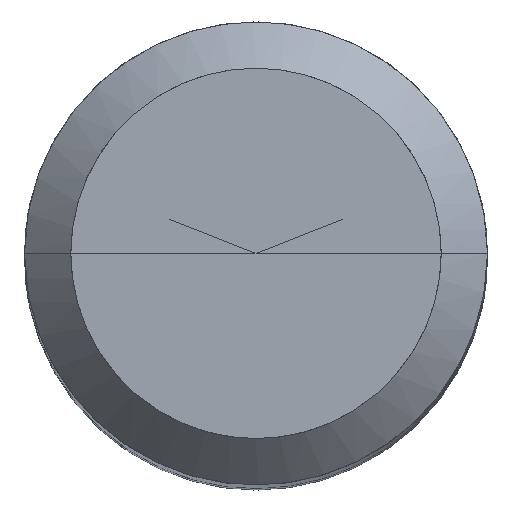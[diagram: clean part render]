
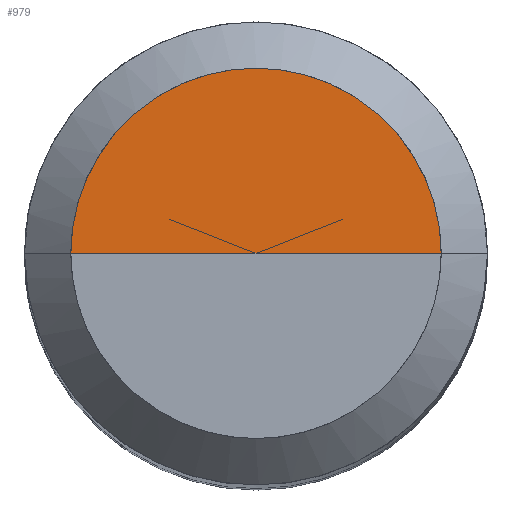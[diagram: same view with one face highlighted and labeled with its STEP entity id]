
A CAD part, top view. The second image highlights one B-rep face of the part: STEP entity #979.
In plain terms, the highlighted free-form (B-spline) face has degree [1, 2] with [2, 5] control points.
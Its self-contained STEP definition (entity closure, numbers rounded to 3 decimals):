
#783=CARTESIAN_POINT('',(5.6,0.0,60.0));
#784=CARTESIAN_POINT('',(5.6,5.6,60.0));
#785=CARTESIAN_POINT('',(0.0,5.6,60.0));
#786=CARTESIAN_POINT('',(-5.6,5.6,60.0));
#787=CARTESIAN_POINT('',(-5.6,0.0,60.0));
#788=CARTESIAN_POINT('',(0.0,0.0,60.0));
#964=(
BOUNDED_SURFACE()
B_SPLINE_SURFACE(1,2,(
(#783,#784,#785,#786,#787),
(#788,#788,#788,#788,#788)
), .UNSPECIFIED.,.F.,.F.,.F.)
B_SPLINE_SURFACE_WITH_KNOTS((2,2),(3,2,3),(
0.0,1.0),(
0.0,0.5,1.0), .UNSPECIFIED.)
GEOMETRIC_REPRESENTATION_ITEM()
RATIONAL_B_SPLINE_SURFACE(((1.0,0.707,1.0,0.707,1.0),
(1.0,0.707,1.0,0.707,1.0)
))
REPRESENTATION_ITEM('')
SURFACE()
);
#965=(
BOUNDED_CURVE()
B_SPLINE_CURVE(2,(#787,#786,#785,#784,#783),.UNSPECIFIED.,.F.,.F.)
B_SPLINE_CURVE_WITH_KNOTS((3,2,3),
(0.0,0.5,1.0),.UNSPECIFIED.)
CURVE()
GEOMETRIC_REPRESENTATION_ITEM()
RATIONAL_B_SPLINE_CURVE((1.0,0.707,1.0,0.707,1.0))
REPRESENTATION_ITEM('')
);
#966=(
BOUNDED_CURVE()
B_SPLINE_CURVE(1,(#783,#788),.UNSPECIFIED.,.F.,.F.)
B_SPLINE_CURVE_WITH_KNOTS((2,2),
(0.0,1.0),.UNSPECIFIED.)
CURVE()
GEOMETRIC_REPRESENTATION_ITEM()
RATIONAL_B_SPLINE_CURVE((1.0,1.0))
REPRESENTATION_ITEM('')
);
#967=(
BOUNDED_CURVE()
B_SPLINE_CURVE(1,(#788,#787),.UNSPECIFIED.,.F.,.F.)
B_SPLINE_CURVE_WITH_KNOTS((2,2),
(0.0,1.0),.UNSPECIFIED.)
CURVE()
GEOMETRIC_REPRESENTATION_ITEM()
RATIONAL_B_SPLINE_CURVE((1.0,1.0))
REPRESENTATION_ITEM('')
);
#968=VERTEX_POINT('',#783);
#969=VERTEX_POINT('',#787);
#970=VERTEX_POINT('',#788);
#971=EDGE_CURVE('',#969,#968,#965,.T.);
#972=EDGE_CURVE('',#968,#970,#966,.T.);
#973=EDGE_CURVE('',#970,#969,#967,.T.);
#974=ORIENTED_EDGE('',*,*,#971,.T.);
#975=ORIENTED_EDGE('',*,*,#972,.T.);
#976=ORIENTED_EDGE('',*,*,#973,.T.);
#977=EDGE_LOOP('',(#974,#975,#976));
#978=FACE_OUTER_BOUND('',#977,.T.);
#979=ADVANCED_FACE('',(#978),#964,.T.);
